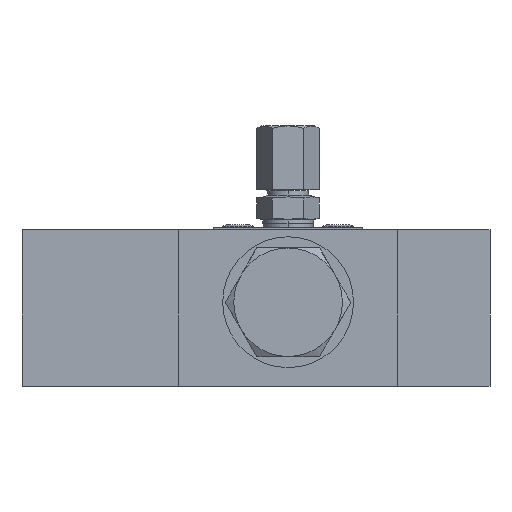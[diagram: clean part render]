
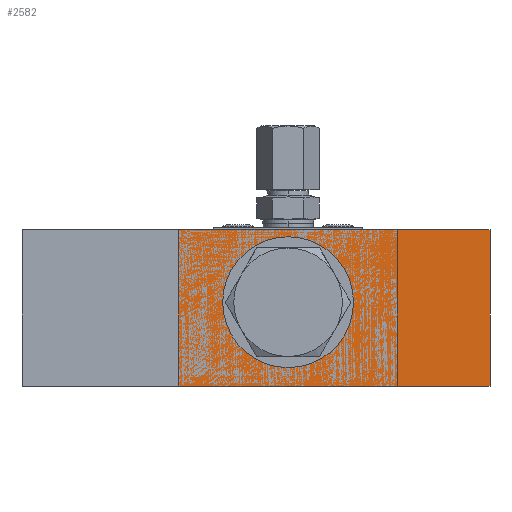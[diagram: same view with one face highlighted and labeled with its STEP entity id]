
A CAD part, front view. The second image highlights one B-rep face of the part: STEP entity #2582.
In plain terms, the highlighted planar face has unit normal (0, -1, 0).
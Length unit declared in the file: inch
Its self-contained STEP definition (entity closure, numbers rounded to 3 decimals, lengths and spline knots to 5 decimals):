
#2451=DIRECTION('',(0.,0.,1.));
#2452=VECTOR('',#2451,1.25);
#2453=CARTESIAN_POINT('',(1.61024,-0.53598,
-1.26594));
#2454=LINE('',#2453,#2452);
#2479=DIRECTION('',(-1.,0.,0.));
#2480=VECTOR('',#2479,2.48031);
#2481=CARTESIAN_POINT('',(1.61024,-0.53598,
-0.01594));
#2482=LINE('',#2481,#2480);
#2487=DIRECTION('',(-1.,0.,0.));
#2488=VECTOR('',#2487,2.48031);
#2489=CARTESIAN_POINT('',(1.61024,-0.53598,
-1.26594));
#2490=LINE('',#2489,#2488);
#2491=DIRECTION('',(0.,0.,1.));
#2492=VECTOR('',#2491,1.25);
#2493=CARTESIAN_POINT('',(-0.87008,-0.53598,
-1.26594));
#2494=LINE('',#2493,#2492);
#2496=CARTESIAN_POINT('',(1.61024,-0.53598,
-1.26594));
#2498=VERTEX_POINT('',#2496);
#2499=CARTESIAN_POINT('',(1.61024,-0.53598,
-0.01594));
#2500=VERTEX_POINT('',#2499);
#2504=CARTESIAN_POINT('',(-0.87008,-0.53598,
-1.26594));
#2506=VERTEX_POINT('',#2504);
#2507=CARTESIAN_POINT('',(-0.87008,-0.53598,
-0.01594));
#2508=VERTEX_POINT('',#2507);
#2570=CARTESIAN_POINT('',(1.61024,-0.53598,
-1.26594));
#2571=DIRECTION('',(0.,-1.,0.));
#2572=DIRECTION('',(0.,0.,1.));
#2573=AXIS2_PLACEMENT_3D('',#2570,#2571,#2572);
#2574=PLANE('',#2573);
#2575=ORIENTED_EDGE('',*,*,#2518,.F.);
#2576=ORIENTED_EDGE('',*,*,#2537,.T.);
#2578=ORIENTED_EDGE('',*,*,#2577,.T.);
#2579=ORIENTED_EDGE('',*,*,#2562,.F.);
#2580=EDGE_LOOP('',(#2575,#2576,#2578,#2579));
#2581=FACE_OUTER_BOUND('',#2580,.F.);
#2582=ADVANCED_FACE('',(#2581),#2574,.T.);
#2518=EDGE_CURVE('',#2498,#2500,#2454,.T.);
#2537=EDGE_CURVE('',#2498,#2506,#2490,.T.);
#2562=EDGE_CURVE('',#2500,#2508,#2482,.T.);
#2577=EDGE_CURVE('',#2506,#2508,#2494,.T.);
